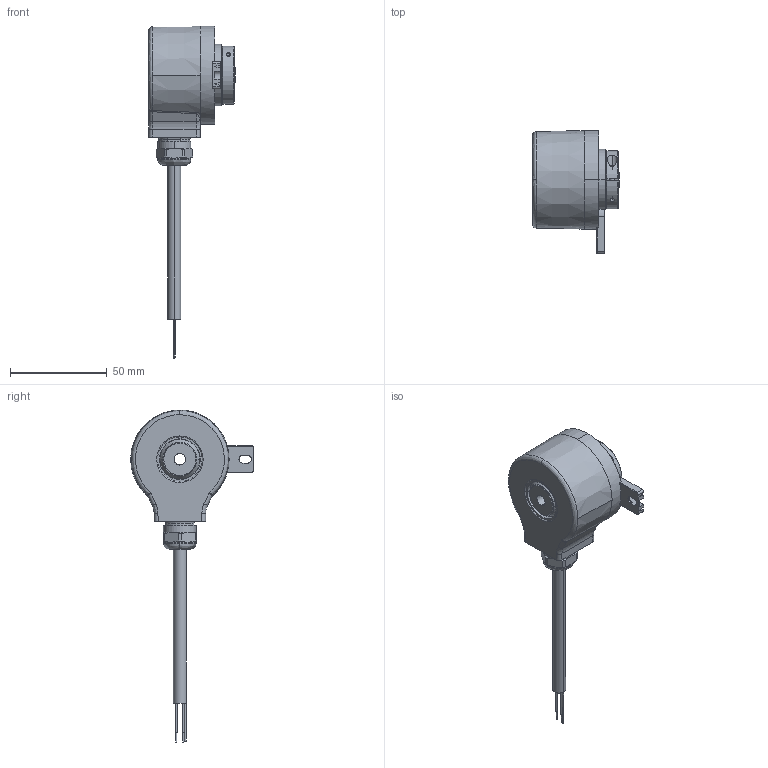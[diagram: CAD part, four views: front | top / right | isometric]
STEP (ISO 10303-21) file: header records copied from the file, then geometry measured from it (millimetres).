
FILE_DESCRIPTION (( 'STEP AP214' ), '1' );
FILE_NAME ('8.5020.21XA.XXXX.STEP', '2017-03-17T08:54:20', ( '' ), ( '' ), 'SwSTEP 2.0', 'SolidWorks 2017', '' );
FILE_SCHEMA (( 'AUTOMOTIVE_DESIGN' ));
Length unit declared in the file: millimetre
Products named in the file (1): 8.5020.21XA.XXXX
Bounding box: 44.7 x 63.3 x 171.4 mm (x, y, z)
Volume: 50616 mm3; surface area: 36513.3 mm2
Topology: 19 solids, 19 shells, 514 faces, 1204 edges, 750 vertices
Faces by surface type: cylinder 189, plane 164, cone 104, bspline 57
Entity records: 17085 total; most frequent: CARTESIAN_POINT 5116, DIRECTION 2477, ORIENTED_EDGE 2376, EDGE_CURVE 1188, AXIS2_PLACEMENT_3D 984, VERTEX_POINT 750, EDGE_LOOP 578, CIRCLE 526
